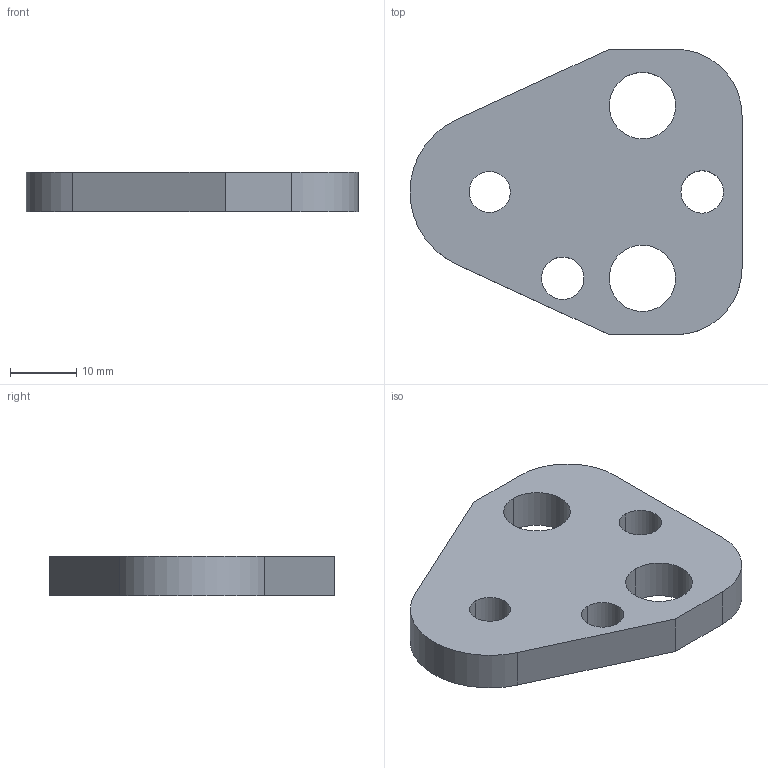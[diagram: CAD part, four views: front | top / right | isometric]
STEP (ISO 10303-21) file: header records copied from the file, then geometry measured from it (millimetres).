
FILE_DESCRIPTION(/* description */ (''),/* implementation_level */ '2;1');
FILE_NAME(/* name */ '3d_bpc13-6_03436_r00.stp',/* time_stamp */ '2011-01-10T14:17:11+09:00',/* author */ ('MISUMI'),/* organization */ (''),/* preprocessor_version */ 'ST-DEVELOPER v11',/* originating_system */ 'UGS - NX 5.0',/* authorisation */ '');
FILE_SCHEMA (('CONFIG_CONTROL_DESIGN'));
Length unit declared in the file: millimetre
Products named in the file (1): 3d_bpc13-6_03436_r00
Bounding box: 50 x 43 x 6 mm (x, y, z)
Volume: 8523.8 mm3; surface area: 4491.1 mm2
Topology: 1 solids, 1 shells, 20 faces, 54 edges, 36 vertices
Faces by surface type: cylinder 13, plane 7
Entity records: 750 total; most frequent: DIRECTION 122, CARTESIAN_POINT 111, ORIENTED_EDGE 108, EDGE_CURVE 54, AXIS2_PLACEMENT_3D 47, VERTEX_POINT 36, EDGE_LOOP 30, LINE 28
